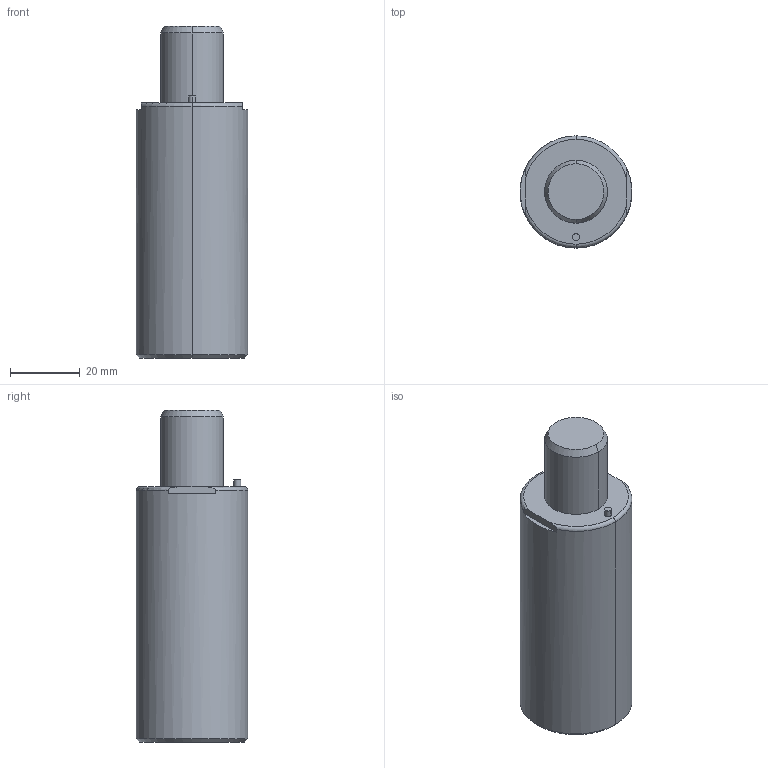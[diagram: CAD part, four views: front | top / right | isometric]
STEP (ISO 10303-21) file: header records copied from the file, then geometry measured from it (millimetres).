
FILE_DESCRIPTION(/* description */ (''),/* implementation_level */ '2;1');
FILE_NAME(/* name */ '3d_gsx32-20_03972_r00.stp',/* time_stamp */ '2011-01-10T14:15:14+09:00',/* author */ ('MISUMI'),/* organization */ (''),/* preprocessor_version */ 'ST-DEVELOPER v11',/* originating_system */ 'UGS - NX 5.0',/* authorisation */ '');
FILE_SCHEMA (('CONFIG_CONTROL_DESIGN'));
Length unit declared in the file: millimetre
Products named in the file (1): 3d_gsx32-20_03972_r00
Bounding box: 32 x 32 x 95 mm (x, y, z)
Volume: 62868.2 mm3; surface area: 10945.2 mm2
Topology: 1 solids, 1 shells, 45 faces, 98 edges, 60 vertices
Faces by surface type: cylinder 20, plane 13, cone 8, torus 4
Entity records: 1324 total; most frequent: DIRECTION 236, CARTESIAN_POINT 228, ORIENTED_EDGE 188, AXIS2_PLACEMENT_3D 100, EDGE_CURVE 94, VERTEX_POINT 60, EDGE_LOOP 54, CIRCLE 54
